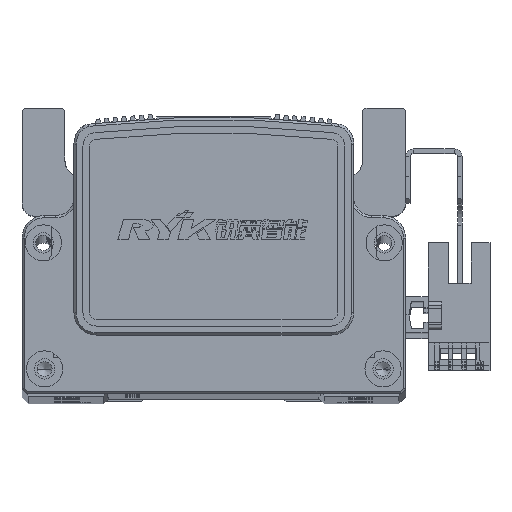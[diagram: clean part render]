
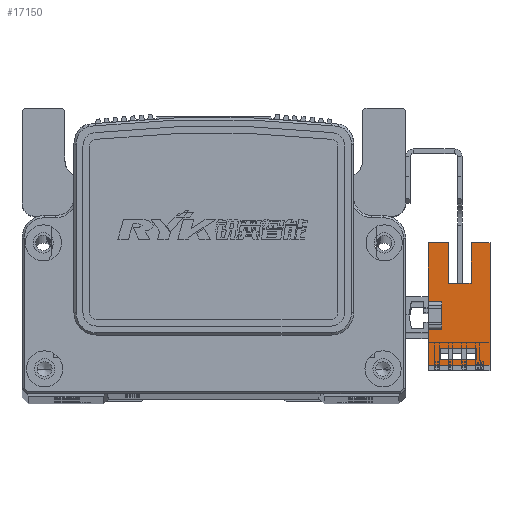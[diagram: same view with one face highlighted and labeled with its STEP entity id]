
A CAD part, top view. The second image highlights one B-rep face of the part: STEP entity #17150.
In plain terms, the highlighted planar face has unit normal (0, 0, 1) as drawn and (1, 0, 0) by its records, which use the part's own axes.
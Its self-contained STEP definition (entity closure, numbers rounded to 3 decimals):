
#6209 = CARTESIAN_POINT ( 'NONE',  ( 3.2, -3.1, 3. ) ) ;
#6213 = CARTESIAN_POINT ( 'NONE',  ( 3.2, -9.83, 0.3 ) ) ;
#6216 = CARTESIAN_POINT ( 'NONE',  ( 3.2, -11.1, 3. ) ) ;
#6224 = CARTESIAN_POINT ( 'NONE',  ( 3.2, 16.1, -6.5 ) ) ;
#6232 = CARTESIAN_POINT ( 'NONE',  ( 3.2, -7.33, 0.3 ) ) ;
#6241 = CARTESIAN_POINT ( 'NONE',  ( 3.2, 3.1, 3. ) ) ;
#6246 = CARTESIAN_POINT ( 'NONE',  ( 3.2, 7.1, -6.5 ) ) ;
#6247 = CARTESIAN_POINT ( 'NONE',  ( 3.2, 16.1, 3. ) ) ;
#6254 = CARTESIAN_POINT ( 'NONE',  ( 3.2, 16.1, -10.7 ) ) ;
#6284 = CARTESIAN_POINT ( 'NONE',  ( 3.2, -3.1, 0. ) ) ;
#6286 = CARTESIAN_POINT ( 'NONE',  ( 3.2, 3.1, 0. ) ) ;
#6288 = CARTESIAN_POINT ( 'NONE',  ( 3.2, -7.33, -7.7 ) ) ;
#6289 = CARTESIAN_POINT ( 'NONE',  ( 3.2, 16.1, -1.5 ) ) ;
#6305 = CARTESIAN_POINT ( 'NONE',  ( 3.2, -9.83, -7.7 ) ) ;
#6322 = CARTESIAN_POINT ( 'NONE',  ( 3.2, -11.1, -10.7 ) ) ;
#6323 = CARTESIAN_POINT ( 'NONE',  ( 3.2, 7.1, -1.5 ) ) ;
#7877 = DIRECTION ( 'NONE',  ( 0., 1., 0. ) ) ;
#7888 = CARTESIAN_POINT ( 'NONE',  ( 3.2, 16.1, 3. ) ) ;
#8122 = CARTESIAN_POINT ( 'NONE',  ( 3.2, 16.1, 3. ) ) ;
#8131 = DIRECTION ( 'NONE',  ( 0., 1., 0. ) ) ;
#8175 = DIRECTION ( 'NONE',  ( 0., 0., 1. ) ) ;
#8179 = CARTESIAN_POINT ( 'NONE',  ( 3.2, 3.1, 3. ) ) ;
#8187 = CARTESIAN_POINT ( 'NONE',  ( 3.2, 16.1, -10.7 ) ) ;
#8196 = CARTESIAN_POINT ( 'NONE',  ( 3.2, 7.1, -6.5 ) ) ;
#8198 = DIRECTION ( 'NONE',  ( 0., 0., 1. ) ) ;
#8200 = DIRECTION ( 'NONE',  ( 0., 0., 1. ) ) ;
#8201 = DIRECTION ( 'NONE',  ( 0., 0., 1. ) ) ;
#8217 = DIRECTION ( 'NONE',  ( 0., 0., 1. ) ) ;
#8231 = CARTESIAN_POINT ( 'NONE',  ( 3.2, -11.1, 3. ) ) ;
#8235 = DIRECTION ( 'NONE',  ( 0., -1., 0. ) ) ;
#8236 = CARTESIAN_POINT ( 'NONE',  ( 3.2, 0., 0. ) ) ;
#8238 = CARTESIAN_POINT ( 'NONE',  ( 3.2, 16.1, 0.3 ) ) ;
#8239 = DIRECTION ( 'NONE',  ( 0., 1., 0. ) ) ;
#8244 = CARTESIAN_POINT ( 'NONE',  ( 3.2, 16.1, -10.7 ) ) ;
#8269 = CARTESIAN_POINT ( 'NONE',  ( 3.2, 25.1, -1.5 ) ) ;
#8273 = DIRECTION ( 'NONE',  ( 0., 0., -1. ) ) ;
#8276 = CARTESIAN_POINT ( 'NONE',  ( 3.2, -3.1, 3. ) ) ;
#8277 = DIRECTION ( 'NONE',  ( 0., 1., 0. ) ) ;
#8302 = CARTESIAN_POINT ( 'NONE',  ( 3.2, 16.1, -7.7 ) ) ;
#8308 = DIRECTION ( 'NONE',  ( 0., 1., 0. ) ) ;
#8312 = CARTESIAN_POINT ( 'NONE',  ( 3.2, 16.1, -10.7 ) ) ;
#8320 = DIRECTION ( 'NONE',  ( 0., 1., 0. ) ) ;
#8329 = DIRECTION ( 'NONE',  ( 0., 0., 1. ) ) ;
#8362 = CARTESIAN_POINT ( 'NONE',  ( 3.2, -7.33, -10.7 ) ) ;
#8373 = CARTESIAN_POINT ( 'NONE',  ( 3.2, 25.1, -6.5 ) ) ;
#8376 = CARTESIAN_POINT ( 'NONE',  ( 3.2, -9.83, -10.7 ) ) ;
#8379 = DIRECTION ( 'NONE',  ( 0., 0., -1. ) ) ;
#8399 = DIRECTION ( 'NONE',  ( 0., -1., 0. ) ) ;
#15746 = PLANE ( 'NONE',  #35440 ) ;
#15748 = CARTESIAN_POINT ( 'NONE',  ( 3.2, 16.1, -10.7 ) ) ;
#15749 = VECTOR ( 'NONE', #7877, 1000. ) ;
#15750 = DIRECTION ( 'NONE',  ( 1., 0., 0. ) ) ;
#15781 = DIRECTION ( 'NONE',  ( 0., 1., 0. ) ) ;
#15802 = LINE ( 'NONE', #7888, #15749 ) ;
#15845 = LINE ( 'NONE', #8122, #15923 ) ;
#15923 = VECTOR ( 'NONE', #8131, 1000. ) ;
#15965 = VECTOR ( 'NONE', #8217, 1000. ) ;
#15969 = LINE ( 'NONE', #8196, #16048 ) ;
#15984 = LINE ( 'NONE', #8238, #15986 ) ;
#15986 = VECTOR ( 'NONE', #8235, 1000. ) ;
#16004 = VECTOR ( 'NONE', #8201, 1000. ) ;
#16013 = VECTOR ( 'NONE', #8239, 1000. ) ;
#16024 = LINE ( 'NONE', #8236, #16013 ) ;
#16035 = LINE ( 'NONE', #8187, #16063 ) ;
#16046 = LINE ( 'NONE', #8231, #15965 ) ;
#16047 = LINE ( 'NONE', #8179, #16055 ) ;
#16048 = VECTOR ( 'NONE', #8198, 1000. ) ;
#16055 = VECTOR ( 'NONE', #8200, 1000. ) ;
#16057 = LINE ( 'NONE', #8244, #16004 ) ;
#16063 = VECTOR ( 'NONE', #8175, 1000. ) ;
#16073 = VECTOR ( 'NONE', #8277, 1000. ) ;
#16075 = VECTOR ( 'NONE', #8273, 1000. ) ;
#16092 = LINE ( 'NONE', #8269, #16073 ) ;
#16093 = LINE ( 'NONE', #8276, #16075 ) ;
#16143 = VECTOR ( 'NONE', #8320, 1000. ) ;
#16148 = LINE ( 'NONE', #8362, #16160 ) ;
#16160 = VECTOR ( 'NONE', #8329, 1000. ) ;
#16181 = LINE ( 'NONE', #8312, #16143 ) ;
#16186 = VECTOR ( 'NONE', #8379, 1000. ) ;
#16192 = VECTOR ( 'NONE', #8308, 1000. ) ;
#16196 = LINE ( 'NONE', #8302, #16192 ) ;
#16197 = LINE ( 'NONE', #8376, #16186 ) ;
#16207 = LINE ( 'NONE', #8373, #16210 ) ;
#16210 = VECTOR ( 'NONE', #8399, 1000. ) ;
#17150 = ADVANCED_FACE ( 'NONE', ( #43583, #43589 ), #15746, .T. ) ;
#35440 = AXIS2_PLACEMENT_3D ( 'NONE', #15748, #15750, #15781 ) ;
#40454 = EDGE_CURVE ( 'NONE', #66040, #66092, #15802, .T. ) ;
#40509 = EDGE_CURVE ( 'NONE', #66001, #66052, #15845, .T. ) ;
#40524 = EDGE_CURVE ( 'NONE', #66266, #66040, #16047, .T. ) ;
#40530 = EDGE_CURVE ( 'NONE', #66066, #66043, #16035, .T. ) ;
#40536 = EDGE_CURVE ( 'NONE', #66130, #66206, #15969, .T. ) ;
#40546 = EDGE_CURVE ( 'NONE', #66184, #66092, #16057, .T. ) ;
#40549 = EDGE_CURVE ( 'NONE', #66034, #66078, #15984, .T. ) ;
#40551 = EDGE_CURVE ( 'NONE', #66237, #66266, #16024, .T. ) ;
#40552 = EDGE_CURVE ( 'NONE', #66202, #66001, #16046, .T. ) ;
#40564 = EDGE_CURVE ( 'NONE', #66052, #66237, #16093, .T. ) ;
#40566 = EDGE_CURVE ( 'NONE', #66206, #66184, #16092, .T. ) ;
#40589 = EDGE_CURVE ( 'NONE', #66242, #66143, #16196, .T. ) ;
#40595 = EDGE_CURVE ( 'NONE', #66202, #66066, #16181, .T. ) ;
#40607 = EDGE_CURVE ( 'NONE', #66143, #66034, #16148, .T. ) ;
#40616 = EDGE_CURVE ( 'NONE', #66078, #66242, #16197, .T. ) ;
#40620 = EDGE_CURVE ( 'NONE', #66043, #66130, #16207, .T. ) ;
#43583 = FACE_OUTER_BOUND ( 'NONE', #67575, .T. ) ;
#43589 = FACE_BOUND ( 'NONE', #67531, .T. ) ;
#52283 = ORIENTED_EDGE ( 'NONE', *, *, #40536, .T. ) ;
#52381 = ORIENTED_EDGE ( 'NONE', *, *, #40524, .F. ) ;
#52383 = ORIENTED_EDGE ( 'NONE', *, *, #40595, .T. ) ;
#52387 = ORIENTED_EDGE ( 'NONE', *, *, #40620, .T. ) ;
#52393 = ORIENTED_EDGE ( 'NONE', *, *, #40566, .T. ) ;
#52399 = ORIENTED_EDGE ( 'NONE', *, *, #40551, .F. ) ;
#52401 = ORIENTED_EDGE ( 'NONE', *, *, #40530, .T. ) ;
#52409 = ORIENTED_EDGE ( 'NONE', *, *, #40589, .F. ) ;
#52411 = ORIENTED_EDGE ( 'NONE', *, *, #40454, .F. ) ;
#52445 = ORIENTED_EDGE ( 'NONE', *, *, #40546, .T. ) ;
#52455 = ORIENTED_EDGE ( 'NONE', *, *, #40564, .F. ) ;
#52457 = ORIENTED_EDGE ( 'NONE', *, *, #40549, .F. ) ;
#52467 = ORIENTED_EDGE ( 'NONE', *, *, #40607, .F. ) ;
#52469 = ORIENTED_EDGE ( 'NONE', *, *, #40616, .F. ) ;
#52492 = ORIENTED_EDGE ( 'NONE', *, *, #40509, .F. ) ;
#52493 = ORIENTED_EDGE ( 'NONE', *, *, #40552, .F. ) ;
#66001 = VERTEX_POINT ( 'NONE', #6216 ) ;
#66034 = VERTEX_POINT ( 'NONE', #6232 ) ;
#66040 = VERTEX_POINT ( 'NONE', #6241 ) ;
#66043 = VERTEX_POINT ( 'NONE', #6224 ) ;
#66052 = VERTEX_POINT ( 'NONE', #6209 ) ;
#66066 = VERTEX_POINT ( 'NONE', #6254 ) ;
#66078 = VERTEX_POINT ( 'NONE', #6213 ) ;
#66092 = VERTEX_POINT ( 'NONE', #6247 ) ;
#66130 = VERTEX_POINT ( 'NONE', #6246 ) ;
#66143 = VERTEX_POINT ( 'NONE', #6288 ) ;
#66184 = VERTEX_POINT ( 'NONE', #6289 ) ;
#66202 = VERTEX_POINT ( 'NONE', #6322 ) ;
#66206 = VERTEX_POINT ( 'NONE', #6323 ) ;
#66237 = VERTEX_POINT ( 'NONE', #6284 ) ;
#66242 = VERTEX_POINT ( 'NONE', #6305 ) ;
#66266 = VERTEX_POINT ( 'NONE', #6286 ) ;
#67531 = EDGE_LOOP ( 'NONE', ( #52457, #52467, #52409, #52469 ) ) ;
#67575 = EDGE_LOOP ( 'NONE', ( #52387, #52283, #52393, #52445, #52411, #52381, #52399, #52455, #52492, #52493, #52383, #52401 ) ) ;
